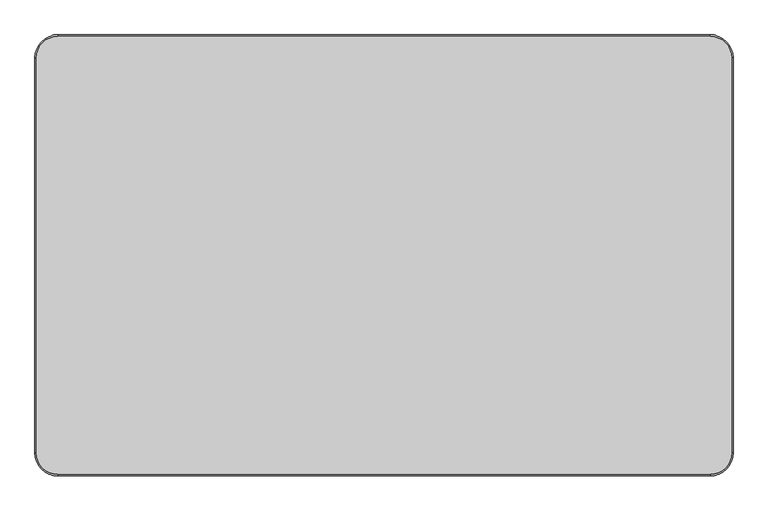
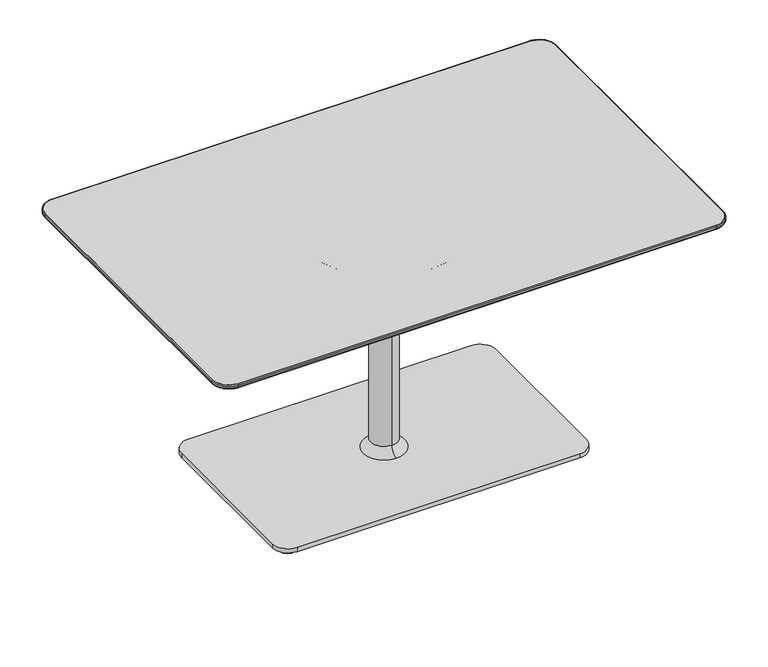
"""IFC4 building model written with IfcOpenShell, lengths in millimetres: furniture geometry, Coalesse_AM_Table_Occasional_Lagunitas_Work : 28.5H x 36D x 57W."""

from ifc_helpers import new_model, si_unit, point, frame, frame_2d, origin, origin_with_axes, place, context, project, spatial, polyline, circle_curve, ellipse_curve, trimmed, segment, composite_curve, outline, extrude, source, transform, mapped, element, save
from ifc_brep_helpers import plane_surface, cylinder_surface, revolved_surface, spline_surface, advanced_brep


def furniture_e72bf5eb(model_context):
    return source(origin(), model_context, "Body", "SolidModel", [
        advanced_brep(
        [(721.1570059, 409.7063839, 711.8724172), (676.7070059, 454.1563839, 711.8724172), (-676.0969941, 454.1563839, 711.8724172), (-720.5469941, 409.7063839, 711.8724172), (-720.5469941, -409.7063839, 711.8724172), (-676.0969941, -454.1563839, 711.8724172), (676.7070059, -454.1563839, 711.8724172), (721.1570059, -409.7063839, 711.8724172), (653.3389826, 386.3390054, 693.8099277), (653.3389826, -386.3390054, 693.8099277), (-652.7289709, -386.3390054, 693.8099277), (-652.7289709, 386.3390054, 693.8099277)],
        [
            (0, 1, circle_curve(frame((676.7070059, 409.7063839, 711.8724172), z_axis=(0.0, 0.0, 1.0), x_axis=(1.0, 0.0, 0.0)), 44.45)),
            (1, 2),
            (2, 3, circle_curve(frame((-676.0969941, 409.7063839, 711.8724172), z_axis=(0.0, 0.0, 1.0), x_axis=(1.0, 0.0, 0.0)), 44.45)),
            (3, 4),
            (4, 5, circle_curve(frame((-676.0969941, -409.7063839, 711.8724172), z_axis=(0.0, 0.0, 1.0), x_axis=(1.0, 0.0, 0.0)), 44.45)),
            (5, 6),
            (6, 7, circle_curve(frame((676.7070059, -409.7063839, 711.8724172), z_axis=(0.0, 0.0, 1.0), x_axis=(1.0, 0.0, 0.0)), 44.45)),
            (7, 0),
            (8, 9),
            (9, 10),
            (10, 11),
            (11, 8),
            (0, 8),
            (8, 1),
            (11, 2),
            (11, 3),
            (10, 4),
            (10, 5),
            (9, 6),
            (9, 7),
        ],
        [
            plane_surface(frame((0.3050059, 0.0, 711.8724172), z_axis=(0.0, 0.0, 1.0), x_axis=(-1.0, 0.0, 0.0))),
            plane_surface(frame((0.3050059, 0.0, 693.8099277), z_axis=(0.0, 0.0, -1.0), x_axis=(-1.0, 0.0, 0.0))),
            spline_surface(2, 1, [[(653.3389826, 386.3390054, 693.8099277), (721.1570059, 409.7063839, 711.8724172)], [(653.3389826, 386.3390054, 693.8099277), (721.1570058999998, 454.1563838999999, 711.8724172)], [(653.3389826, 386.3390054, 693.8099277), (676.7070059, 454.1563839, 711.8724172)]], [3, 3], [2, 2], [0.0, 1.0], [0.0, 1.0], weights=[[1.0, 1.0], [0.707106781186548, 0.707106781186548], [1.0, 1.0]]),
            plane_surface(frame((0.3050059, 386.3390054, 693.8099277), z_axis=(0.0, 0.25736805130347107, -0.9663134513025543), x_axis=(-1.0, 0.0, 0.0))),
            spline_surface(2, 1, [[(-652.7289709, 386.3390054, 693.8099277), (-676.0969941, 454.1563839, 711.8724172)], [(-652.7289709, 386.3390054, 693.8099277), (-720.5469940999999, 454.1563838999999, 711.8724172)], [(-652.7289709, 386.3390054, 693.8099277), (-720.5469941, 409.7063839, 711.8724172)]], [3, 3], [2, 2], [0.0, 1.0], [0.0, 1.0], weights=[[1.0, 1.0], [0.707106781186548, 0.707106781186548], [1.0, 1.0]]),
            plane_surface(frame((-652.7289709, 0.0, 693.8099277), z_axis=(-0.2573657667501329, 0.0, -0.9663140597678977), x_axis=(0.0, -1.0, 0.0))),
            spline_surface(2, 1, [[(-652.7289709, -386.3390054, 693.8099277), (-720.5469941, -409.7063839, 711.8724172)], [(-652.7289709, -386.3390054, 693.8099277), (-720.5469941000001, -454.15638390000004, 711.8724172)], [(-652.7289709, -386.3390054, 693.8099277), (-676.0969941, -454.1563839, 711.8724172)]], [3, 3], [2, 2], [0.0, 1.0], [0.0, 1.0], weights=[[1.0, 1.0], [0.7071067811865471, 0.7071067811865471], [1.0, 1.0]]),
            plane_surface(frame((0.3050059, -386.3390054, 693.8099277), z_axis=(0.0, -0.25736805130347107, -0.9663134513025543), x_axis=(1.0, 0.0, 0.0))),
            spline_surface(2, 1, [[(653.3389826, -386.3390054, 693.8099277), (676.7070059, -454.1563839, 711.8724172)], [(653.3389826, -386.3390054, 693.8099277), (721.1570059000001, -454.15638390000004, 711.8724172)], [(653.3389826, -386.3390054, 693.8099277), (721.1570059, -409.7063839, 711.8724172)]], [3, 3], [2, 2], [0.0, 1.0], [0.0, 1.0], weights=[[1.0, 1.0], [0.707106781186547, 0.707106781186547], [1.0, 1.0]]),
            plane_surface(frame((653.3389826, 0.0, 693.8099277), z_axis=(0.2573657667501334, 0.0, -0.9663140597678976), x_axis=(0.0, 1.0, 0.0))),
        ],
        [
            (0, [[1, 2, 3, 4, 5, 6, 7, 8]]),
            (1, [[9, 10, 11, 12]]),
            (2, [[-1, 13, 14]]),
            (3, [[-12, 15, -2, -14]]),
            (4, [[-3, -15, 16]]),
            (5, [[-11, 17, -4, -16]]),
            (6, [[-5, -17, 18]]),
            (7, [[-10, 19, -6, -18]]),
            (8, [[-7, -19, 20]]),
            (9, [[-9, -13, -8, -20]]),
        ],
    ),
        extrude(outline(composite_curve([segment(trimmed(circle_curve(frame_2d((676.7070059, 409.7063839)), 44.45), [point((676.7070059, 454.1563839))], [point((721.1570059, 409.7063839))], False, "CARTESIAN"), True, "CONTINUOUS"), segment(polyline([(721.1570059, 409.7063839), (721.1570059, -409.7063839)]), True, "CONTINUOUS"), segment(trimmed(circle_curve(frame_2d((676.7070059, -409.7063839)), 44.45), [point((721.1570059, -409.7063839))], [point((676.7070059, -454.1563839))], False, "CARTESIAN"), True, "CONTINUOUS"), segment(polyline([(676.7070059, -454.1563839), (-676.0969941, -454.1563839)]), True, "CONTINUOUS"), segment(trimmed(circle_curve(frame_2d((-676.0969941, -409.7063839)), 44.45), [point((-676.0969941, -454.1563839))], [point((-720.5469941, -409.7063839))], False, "CARTESIAN"), True, "CONTINUOUS"), segment(polyline([(-720.5469941, -409.7063839), (-720.5469941, 409.7063839)]), True, "CONTINUOUS"), segment(trimmed(circle_curve(frame_2d((-676.0969941, 409.7063839)), 44.45), [point((-720.5469941, 409.7063839))], [point((-676.0969941, 454.1563839))], False, "CARTESIAN"), True, "CONTINUOUS"), segment(polyline([(-676.0969941, 454.1563839), (676.7070059, 454.1563839)]), True, "CONTINUOUS")], self_intersect=False)), frame((0.0, 0.0, 711.8724172), z_axis=(0.0, 0.0, 1.0), x_axis=(1.0, 0.0, 0.0)), (0.0, 0.0, 1.0), 12.0275828),
        extrude(outline(composite_curve([segment(trimmed(circle_curve(frame_2d((-404.2943146, 226.8029495)), 25.4), [point((-429.6943146, 226.8029495))], [point((-378.8943146, 226.8029495))], False, "CARTESIAN"), True, "CONTINUOUS"), segment(trimmed(circle_curve(frame_2d((-404.2943146, 226.8029495)), 25.4), [point((-378.8943146, 226.8029495))], [point((-429.6943146, 226.8029495))], False, "CARTESIAN"), True, "CONTINUOUS")], self_intersect=False)), origin_with_axes(), (0.0, 0.0, 1.0), 10.6571495),
        extrude(outline(composite_curve([segment(trimmed(circle_curve(frame_2d((404.9043263, 226.8029495)), 25.4), [point((379.5043263, 226.8029495))], [point((430.3043263, 226.8029495))], False, "CARTESIAN"), True, "CONTINUOUS"), segment(trimmed(circle_curve(frame_2d((404.9043263, 226.8029495)), 25.4), [point((430.3043263, 226.8029495))], [point((379.5043263, 226.8029495))], False, "CARTESIAN"), True, "CONTINUOUS")], self_intersect=False)), origin_with_axes(), (0.0, 0.0, 1.0), 10.6571495),
        extrude(outline(composite_curve([segment(trimmed(circle_curve(frame_2d((404.9043263, -226.8029495)), 25.4), [point((379.5043263, -226.8029495))], [point((430.3043263, -226.8029495))], False, "CARTESIAN"), True, "CONTINUOUS"), segment(trimmed(circle_curve(frame_2d((404.9043263, -226.8029495)), 25.4), [point((430.3043263, -226.8029495))], [point((379.5043263, -226.8029495))], False, "CARTESIAN"), True, "CONTINUOUS")], self_intersect=False)), origin_with_axes(), (0.0, 0.0, 1.0), 10.6571495),
        extrude(outline(composite_curve([segment(trimmed(circle_curve(frame_2d((-404.2943146, -226.8029495)), 25.4), [point((-429.6943146, -226.8029495))], [point((-378.8943146, -226.8029495))], False, "CARTESIAN"), True, "CONTINUOUS"), segment(trimmed(circle_curve(frame_2d((-404.2943146, -226.8029495)), 25.4), [point((-378.8943146, -226.8029495))], [point((-429.6943146, -226.8029495))], False, "CARTESIAN"), True, "CONTINUOUS")], self_intersect=False)), origin_with_axes(), (0.0, 0.0, 1.0), 10.6571495),
        extrude(outline(composite_curve([segment(trimmed(circle_curve(frame_2d((400.3550059, 222.2481833)), 44.45), [point((400.3550059, 266.6981833))], [point((444.8050059, 222.2481833))], False, "CARTESIAN"), True, "CONTINUOUS"), segment(polyline([(444.8050059, 222.2481833), (444.8050059, -222.2481833)]), True, "CONTINUOUS"), segment(trimmed(circle_curve(frame_2d((400.3550059, -222.2481833)), 44.45), [point((444.8050059, -222.2481833))], [point((400.3550059, -266.6981833))], False, "CARTESIAN"), True, "CONTINUOUS"), segment(polyline([(400.3550059, -266.6981833), (-399.7449941, -266.6981833)]), True, "CONTINUOUS"), segment(trimmed(circle_curve(frame_2d((-399.7449941, -222.2481833)), 44.45), [point((-399.7449941, -266.6981833))], [point((-444.1949941, -222.2481833))], False, "CARTESIAN"), True, "CONTINUOUS"), segment(polyline([(-444.1949941, -222.2481833), (-444.1949941, 222.2481833)]), True, "CONTINUOUS"), segment(trimmed(circle_curve(frame_2d((-399.7449941, 222.2481833)), 44.45), [point((-444.1949941, 222.2481833))], [point((-399.7449941, 266.6981833))], False, "CARTESIAN"), True, "CONTINUOUS"), segment(polyline([(-399.7449941, 266.6981833), (400.3550059, 266.6981833)]), True, "CONTINUOUS")], self_intersect=False)), frame((0.0, 0.0, 10.6571495), z_axis=(0.0, 0.0, 1.0), x_axis=(1.0, 0.0, 0.0)), (0.0, 0.0, 1.0), 12.7000004),
        advanced_brep(
        [(-723.5930954, 409.7063839, 715.6656816), (-676.0969941, 457.2024852, 715.6656816), (-676.0969941, 454.1563839, 711.8724172), (-720.5469941, 409.7063839, 711.8724172), (-723.5930954, 409.7063839, 720.8538988), (-676.0969941, 457.2024852, 720.8538988), (-720.5469941, 409.7063839, 723.9), (-676.0969941, 454.1563839, 723.9), (-720.5469941, -409.7063839, 711.8724172), (-723.5930954, -409.7063839, 715.6656816), (-723.5930954, -409.7063839, 720.8538988), (-720.5469941, -409.7063839, 723.9), (-676.0969941, -457.2024852, 715.6656816), (-676.0969941, -454.1563839, 711.8724172), (-676.0969941, -457.2024852, 720.8538988), (-676.0969941, -454.1563839, 723.9), (676.7070059, -454.1563839, 711.8724172), (676.7070059, -457.2024852, 715.6656816), (676.7070059, -457.2024852, 720.8538988), (676.7070059, -454.1563839, 723.9), (724.2031071, -409.7063839, 715.6656816), (721.1570059, -409.7063839, 711.8724172), (724.2031071, -409.7063839, 720.8538988), (721.1570059, -409.7063839, 723.9), (721.1570059, 409.7063839, 711.8724172), (724.2031071, 409.7063839, 715.6656816), (724.2031071, 409.7063839, 720.8538988), (721.1570059, 409.7063839, 723.9), (676.7070059, 457.2024852, 715.6656816), (676.7070059, 454.1563839, 711.8724172), (676.7070059, 457.2024852, 720.8538988), (676.7070059, 454.1563839, 723.9)],
        [
            (0, 1, circle_curve(frame((-676.0969941, 409.7063839, 715.6656816), z_axis=(0.0, 0.0, -1.0), x_axis=(0.0, 1.0, 0.0)), 47.4961012)),
            (1, 2, circle_curve(frame((-676.0969941, 453.3175869, 715.6656816), z_axis=(-1.0, 0.0, 0.0), x_axis=(0.0, -1.0, 0.0)), 3.8848983)),
            (2, 3, circle_curve(frame((-676.0969941, 409.7063839, 711.8724172), z_axis=(0.0, 0.0, 1.0), x_axis=(0.0, 1.0, 0.0)), 44.45)),
            (3, 0, circle_curve(frame((-719.7081971, 409.7063839, 715.6656816), z_axis=(0.0, 1.0, 0.0), x_axis=(1.0, 0.0, 0.0)), 3.8848983)),
            (4, 5, circle_curve(frame((-676.0969941, 409.7063839, 720.8538988), z_axis=(0.0, 0.0, -1.0), x_axis=(0.0, 1.0, 0.0)), 47.4961012)),
            (5, 1),
            (0, 4),
            (6, 7, circle_curve(frame((-676.0969941, 409.7063839, 723.9), z_axis=(0.0, 0.0, -1.0), x_axis=(0.0, 1.0, 0.0)), 44.45)),
            (7, 5, circle_curve(frame((-676.0969941, 454.1563839, 720.8538988), z_axis=(-1.0, 0.0, 0.0), x_axis=(0.0, -1.0, 0.0)), 3.0461012)),
            (4, 6, circle_curve(frame((-720.5469941, 409.7063839, 720.8538988), z_axis=(0.0, 1.0, 0.0), x_axis=(1.0, 0.0, 0.0)), 3.0461012)),
            (2, 7),
            (6, 3),
            (3, 8),
            (8, 9, circle_curve(frame((-719.7081971, -409.7063839, 715.6656816), z_axis=(0.0, 1.0, 0.0), x_axis=(1.0, 0.0, 0.0)), 3.8848983)),
            (9, 0),
            (9, 10),
            (10, 4),
            (10, 11, circle_curve(frame((-720.5469941, -409.7063839, 720.8538988), z_axis=(0.0, 1.0, 0.0), x_axis=(1.0, 0.0, 0.0)), 3.0461012)),
            (11, 6),
            (11, 8),
            (12, 9, circle_curve(frame((-676.0969941, -409.7063839, 715.6656816), z_axis=(0.0, 0.0, -1.0), x_axis=(-1.0, 0.0, 0.0)), 47.4961012)),
            (8, 13, circle_curve(frame((-676.0969941, -409.7063839, 711.8724172), z_axis=(0.0, 0.0, 1.0), x_axis=(-1.0, 0.0, 0.0)), 44.45)),
            (13, 12, circle_curve(frame((-676.0969941, -453.3175869, 715.6656816), z_axis=(-1.0, 0.0, 0.0), x_axis=(0.0, 1.0, 0.0)), 3.8848983)),
            (14, 10, circle_curve(frame((-676.0969941, -409.7063839, 720.8538988), z_axis=(0.0, 0.0, -1.0), x_axis=(-1.0, 0.0, 0.0)), 47.4961012)),
            (12, 14),
            (15, 11, circle_curve(frame((-676.0969941, -409.7063839, 723.9), z_axis=(0.0, 0.0, -1.0), x_axis=(-1.0, 0.0, 0.0)), 44.45)),
            (14, 15, circle_curve(frame((-676.0969941, -454.1563839, 720.8538988), z_axis=(-1.0, 0.0, 0.0), x_axis=(0.0, 1.0, 0.0)), 3.0461012)),
            (15, 13),
            (13, 16),
            (16, 17, circle_curve(frame((676.7070059, -453.3175869, 715.6656816), z_axis=(-1.0, 0.0, 0.0), x_axis=(0.0, 1.0, 0.0)), 3.8848983)),
            (17, 12),
            (17, 18),
            (18, 14),
            (18, 19, circle_curve(frame((676.7070059, -454.1563839, 720.8538988), z_axis=(-1.0, 0.0, 0.0), x_axis=(0.0, 1.0, 0.0)), 3.0461012)),
            (19, 15),
            (19, 16),
            (20, 17, circle_curve(frame((676.7070059, -409.7063839, 715.6656816), z_axis=(0.0, 0.0, -1.0), x_axis=(0.0, -1.0, 0.0)), 47.4961012)),
            (16, 21, circle_curve(frame((676.7070059, -409.7063839, 711.8724172), z_axis=(0.0, 0.0, 1.0), x_axis=(0.0, -1.0, 0.0)), 44.45)),
            (21, 20, circle_curve(frame((720.3182088, -409.7063839, 715.6656816), z_axis=(0.0, -1.0, 0.0), x_axis=(-1.0, 0.0, 0.0)), 3.8848983)),
            (22, 18, circle_curve(frame((676.7070059, -409.7063839, 720.8538988), z_axis=(0.0, 0.0, -1.0), x_axis=(0.0, -1.0, 0.0)), 47.4961012)),
            (20, 22),
            (23, 19, circle_curve(frame((676.7070059, -409.7063839, 723.9), z_axis=(0.0, 0.0, -1.0), x_axis=(0.0, -1.0, 0.0)), 44.45)),
            (22, 23, circle_curve(frame((721.1570059, -409.7063839, 720.8538988), z_axis=(0.0, -1.0, 0.0), x_axis=(-1.0, 0.0, 0.0)), 3.0461012)),
            (23, 21),
            (21, 24),
            (24, 25, circle_curve(frame((720.3182088, 409.7063839, 715.6656816), z_axis=(0.0, -1.0, 0.0), x_axis=(-1.0, 0.0, 0.0)), 3.8848983)),
            (25, 20),
            (25, 26),
            (26, 22),
            (26, 27, circle_curve(frame((721.1570059, 409.7063839, 720.8538988), z_axis=(0.0, -1.0, 0.0), x_axis=(-1.0, 0.0, 0.0)), 3.0461012)),
            (27, 23),
            (27, 24),
            (28, 25, circle_curve(frame((676.7070059, 409.7063839, 715.6656816), z_axis=(0.0, 0.0, -1.0), x_axis=(1.0, 0.0, 0.0)), 47.4961012)),
            (24, 29, circle_curve(frame((676.7070059, 409.7063839, 711.8724172), z_axis=(0.0, 0.0, 1.0), x_axis=(1.0, 0.0, 0.0)), 44.45)),
            (29, 28, circle_curve(frame((676.7070059, 453.3175869, 715.6656816), z_axis=(1.0, 0.0, 0.0), x_axis=(0.0, -1.0, 0.0)), 3.8848983)),
            (30, 26, circle_curve(frame((676.7070059, 409.7063839, 720.8538988), z_axis=(0.0, 0.0, -1.0), x_axis=(1.0, 0.0, 0.0)), 47.4961012)),
            (28, 30),
            (31, 27, circle_curve(frame((676.7070059, 409.7063839, 723.9), z_axis=(0.0, 0.0, -1.0), x_axis=(1.0, 0.0, 0.0)), 44.45)),
            (30, 31, circle_curve(frame((676.7070059, 454.1563839, 720.8538988), z_axis=(1.0, 0.0, 0.0), x_axis=(0.0, -1.0, 0.0)), 3.0461012)),
            (31, 29),
            (29, 2),
            (1, 28),
            (5, 30),
            (7, 31),
        ],
        [
            revolved_surface(trimmed(ellipse_curve(frame((-676.0969941, 453.3175869, 715.6656816), z_axis=(1.0, 0.0, 0.0), x_axis=(0.0, -1.0, 0.0)), 3.8848983, 3.8848983), [point((-676.0969941, 454.1563839, 711.8724172))], [point((-676.0969941, 457.2024852, 715.6656816))], True, "CARTESIAN"), (-676.0969941, 409.7063839, 0.0), (0.0, 0.0, 1.0)),
            cylinder_surface(frame((-676.0969941, 409.7063839, 0.0), z_axis=(0.0, 0.0, 1.0), x_axis=(0.0, 1.0, 0.0)), 47.4961012),
            revolved_surface(trimmed(ellipse_curve(frame((-676.0969941, 454.1563839, 720.8538988), z_axis=(1.0, 0.0, 0.0), x_axis=(0.0, -1.0, 0.0)), 3.0461012, 3.0461012), [point((-676.0969941, 457.2024852, 720.8538988))], [point((-676.0969941, 454.1563839, 723.9))], True, "CARTESIAN"), (-676.0969941, 409.7063839, 0.0), (0.0, 0.0, 1.0)),
            revolved_surface(polyline([(-676.0969941, 454.1563839, 723.9), (-676.0969941, 454.1563839, 711.8724172)]), (-676.0969941, 409.7063839, 0.0), (0.0, 0.0, 1.0)),
            cylinder_surface(frame((-719.7081971, 409.7063839, 715.6656816), z_axis=(0.0, 1.0, 0.0), x_axis=(1.0, 0.0, 0.0)), 3.8848983),
            plane_surface(frame((-723.5930954, 409.7063839, 715.6656816), z_axis=(-1.0, 0.0, 0.0), x_axis=(0.0, -1.0, 0.0))),
            cylinder_surface(frame((-720.5469941, 409.7063839, 720.8538988), z_axis=(0.0, 1.0, 0.0), x_axis=(1.0, 0.0, 0.0)), 3.0461012),
            plane_surface(frame((-720.5469941, 409.7063839, 723.9), z_axis=(1.0, 0.0, 0.0), x_axis=(0.0, -1.0, 0.0))),
            revolved_surface(trimmed(ellipse_curve(frame((-719.7081971, -409.7063839, 715.6656816), z_axis=(0.0, 1.0, 0.0), x_axis=(1.0, 0.0, 0.0)), 3.8848983, 3.8848983), [point((-720.5469941, -409.7063839, 711.8724172))], [point((-723.5930954, -409.7063839, 715.6656816))], True, "CARTESIAN"), (-676.0969941, -409.7063839, 0.0), (0.0, 0.0, 1.0)),
            cylinder_surface(frame((-676.0969941, -409.7063839, 0.0), z_axis=(0.0, 0.0, 1.0), x_axis=(-1.0, 0.0, 0.0)), 47.4961012),
            revolved_surface(trimmed(ellipse_curve(frame((-720.5469941, -409.7063839, 720.8538988), z_axis=(0.0, 1.0, 0.0), x_axis=(1.0, 0.0, 0.0)), 3.0461012, 3.0461012), [point((-723.5930954, -409.7063839, 720.8538988))], [point((-720.5469941, -409.7063839, 723.9))], True, "CARTESIAN"), (-676.0969941, -409.7063839, 0.0), (0.0, 0.0, 1.0)),
            revolved_surface(polyline([(-720.5469941, -409.7063839, 723.9), (-720.5469941, -409.7063839, 711.8724172)]), (-676.0969941, -409.7063839, 0.0), (0.0, 0.0, 1.0)),
            cylinder_surface(frame((-676.0969941, -453.3175869, 715.6656816), z_axis=(-1.0, 0.0, 0.0), x_axis=(0.0, 1.0, 0.0)), 3.8848983),
            plane_surface(frame((-676.0969941, -457.2024852, 715.6656816), z_axis=(0.0, -1.0, 0.0), x_axis=(1.0, 0.0, 0.0))),
            cylinder_surface(frame((-676.0969941, -454.1563839, 720.8538988), z_axis=(-1.0, 0.0, 0.0), x_axis=(0.0, 1.0, 0.0)), 3.0461012),
            plane_surface(frame((-676.0969941, -454.1563839, 723.9), z_axis=(0.0, 1.0, 0.0), x_axis=(1.0, 0.0, 0.0))),
            revolved_surface(trimmed(ellipse_curve(frame((676.7070059, -453.3175869, 715.6656816), z_axis=(-1.0, 0.0, 0.0), x_axis=(0.0, 1.0, 0.0)), 3.8848983, 3.8848983), [point((676.7070059, -454.1563839, 711.8724172))], [point((676.7070059, -457.2024852, 715.6656816))], True, "CARTESIAN"), (676.7070059, -409.7063839, 0.0), (0.0, 0.0, 1.0)),
            cylinder_surface(frame((676.7070059, -409.7063839, 0.0), z_axis=(0.0, 0.0, 1.0), x_axis=(0.0, -1.0, 0.0)), 47.4961012),
            revolved_surface(trimmed(ellipse_curve(frame((676.7070059, -454.1563839, 720.8538988), z_axis=(-1.0, 0.0, 0.0), x_axis=(0.0, 1.0, 0.0)), 3.0461012, 3.0461012), [point((676.7070059, -457.2024852, 720.8538988))], [point((676.7070059, -454.1563839, 723.9))], True, "CARTESIAN"), (676.7070059, -409.7063839, 0.0), (0.0, 0.0, 1.0)),
            revolved_surface(polyline([(676.7070059, -454.1563839, 723.9), (676.7070059, -454.1563839, 711.8724172)]), (676.7070059, -409.7063839, 0.0), (0.0, 0.0, 1.0)),
            cylinder_surface(frame((720.3182088, -409.7063839, 715.6656816), z_axis=(0.0, -1.0, 0.0), x_axis=(-1.0, 0.0, 0.0)), 3.8848983),
            plane_surface(frame((724.2031071, -409.7063839, 715.6656816), z_axis=(1.0, 0.0, 0.0), x_axis=(0.0, 1.0, 0.0))),
            cylinder_surface(frame((721.1570059, -409.7063839, 720.8538988), z_axis=(0.0, -1.0, 0.0), x_axis=(-1.0, 0.0, 0.0)), 3.0461012),
            plane_surface(frame((721.1570059, -409.7063839, 723.9), z_axis=(-1.0, 0.0, 0.0), x_axis=(0.0, 1.0, 0.0))),
            revolved_surface(trimmed(ellipse_curve(frame((720.3182088, 409.7063839, 715.6656816), z_axis=(0.0, -1.0, 0.0), x_axis=(-1.0, 0.0, 0.0)), 3.8848983, 3.8848983), [point((721.1570059, 409.7063839, 711.8724172))], [point((724.2031071, 409.7063839, 715.6656816))], True, "CARTESIAN"), (676.7070059, 409.7063839, 0.0), (0.0, 0.0, 1.0)),
            cylinder_surface(frame((676.7070059, 409.7063839, 0.0), z_axis=(0.0, 0.0, 1.0), x_axis=(1.0, 0.0, 0.0)), 47.4961012),
            revolved_surface(trimmed(ellipse_curve(frame((721.1570059, 409.7063839, 720.8538988), z_axis=(0.0, -1.0, 0.0), x_axis=(-1.0, 0.0, 0.0)), 3.0461012, 3.0461012), [point((724.2031071, 409.7063839, 720.8538988))], [point((721.1570059, 409.7063839, 723.9))], True, "CARTESIAN"), (676.7070059, 409.7063839, 0.0), (0.0, 0.0, 1.0)),
            revolved_surface(polyline([(721.1570059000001, 409.7063839, 723.9), (721.1570059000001, 409.7063839, 711.8724172)]), (676.7070059, 409.7063839, 0.0), (0.0, 0.0, 1.0)),
            cylinder_surface(frame((676.7070059, 453.3175869, 715.6656816), z_axis=(1.0, 0.0, 0.0), x_axis=(0.0, -1.0, 0.0)), 3.8848983),
            plane_surface(frame((676.7070059, 457.2024852, 715.6656816), z_axis=(0.0, 1.0, 0.0), x_axis=(-1.0, 0.0, 0.0))),
            cylinder_surface(frame((676.7070059, 454.1563839, 720.8538988), z_axis=(1.0, 0.0, 0.0), x_axis=(0.0, -1.0, 0.0)), 3.0461012),
            plane_surface(frame((676.7070059, 454.1563839, 723.9), z_axis=(0.0, -1.0, 0.0), x_axis=(-1.0, 0.0, 0.0))),
        ],
        [
            (0, [[1, 2, 3, 4]]),
            (1, [[5, 6, -1, 7]]),
            (2, [[8, 9, -5, 10]]),
            (3, [[-3, 11, -8, 12]]),
            (4, [[-4, 13, 14, 15]]),
            (5, [[-7, -15, 16, 17]]),
            (6, [[-10, -17, 18, 19]]),
            (7, [[-12, -19, 20, -13]]),
            (8, [[21, -14, 22, 23]]),
            (9, [[24, -16, -21, 25]]),
            (10, [[26, -18, -24, 27]]),
            (11, [[-22, -20, -26, 28]]),
            (12, [[-23, 29, 30, 31]]),
            (13, [[-25, -31, 32, 33]]),
            (14, [[-27, -33, 34, 35]]),
            (15, [[-28, -35, 36, -29]]),
            (16, [[37, -30, 38, 39]]),
            (17, [[40, -32, -37, 41]]),
            (18, [[42, -34, -40, 43]]),
            (19, [[-38, -36, -42, 44]]),
            (20, [[-39, 45, 46, 47]]),
            (21, [[-41, -47, 48, 49]]),
            (22, [[-43, -49, 50, 51]]),
            (23, [[-44, -51, 52, -45]]),
            (24, [[53, -46, 54, 55]]),
            (25, [[56, -48, -53, 57]]),
            (26, [[58, -50, -56, 59]]),
            (27, [[-54, -52, -58, 60]]),
            (28, [[-55, 61, -2, 62]]),
            (29, [[-57, -62, -6, 63]]),
            (30, [[-59, -63, -9, 64]]),
            (31, [[-60, -64, -11, -61]]),
        ],
    ),
        advanced_brep(
        [(0.3050059, -37.9287895, 564.3567695), (0.3050059, 37.9287895, 564.3567695), (0.3050059, 37.9287895, 50.0429711), (0.3050059, -37.9287895, 50.0429711), (0.3050059, -59.3395816, 602.3698908), (0.3050059, 59.3395816, 602.3698908), (0.3050059, -197.9068019, 686.3534968), (0.3050059, 197.9068019, 686.3534968), (0.3050059, -212.4265152, 690.4101307), (0.3050059, 212.4265152, 690.4101307), (0.3050059, -226.4292749, 690.4101307), (0.3050059, 226.4292749, 690.4101307), (0.3050059, -228.4774392, 693.8099277), (0.3050059, 228.4774392, 693.8099277), (0.3050059, 0.0, 693.8099277), (0.3050059, -60.2304855, 23.3571499), (0.3050059, 60.2304855, 23.3571499), (0.3050059, 0.0, 23.3571499)],
        [
            (0, 1, circle_curve(frame((0.3050059, 0.0, 564.3567695), z_axis=(0.0, 0.0, -1.0), x_axis=(0.0, 1.0, 0.0)), 37.9287895)),
            (1, 2),
            (2, 3, circle_curve(frame((0.3050059, 0.0, 50.0429711), z_axis=(0.0, 0.0, 1.0), x_axis=(0.0, 1.0, 0.0)), 37.9287895)),
            (3, 0),
            (1, 0, circle_curve(frame((0.3050059, 0.0, 564.3567695), z_axis=(0.0, 0.0, -1.0), x_axis=(0.0, 1.0, 0.0)), 37.9287895)),
            (3, 2, circle_curve(frame((0.3050059, 0.0, 50.0429711), z_axis=(0.0, 0.0, 1.0), x_axis=(0.0, 1.0, 0.0)), 37.9287895)),
            (4, 5, circle_curve(frame((0.3050059, 0.0, 602.3698908), z_axis=(0.0, 0.0, -1.0), x_axis=(0.0, 1.0, 0.0)), 59.3395816)),
            (5, 1, circle_curve(frame((0.3050059, 82.3787895, 564.3567695), z_axis=(1.0, 0.0, 0.0), x_axis=(0.0, 1.0, 0.0)), 44.45)),
            (0, 4, circle_curve(frame((0.3050059, -82.3787895, 564.3567695), z_axis=(1.0, 0.0, 0.0), x_axis=(0.0, -1.0, 0.0)), 44.45)),
            (5, 4, circle_curve(frame((0.3050059, 0.0, 602.3698908), z_axis=(0.0, 0.0, -1.0), x_axis=(0.0, 1.0, 0.0)), 59.3395816)),
            (6, 7, circle_curve(frame((0.3050059, 0.0, 686.3534968), z_axis=(0.0, 0.0, -1.0), x_axis=(0.0, 1.0, 0.0)), 197.9068019)),
            (7, 5),
            (4, 6),
            (7, 6, circle_curve(frame((0.3050059, 0.0, 686.3534968), z_axis=(0.0, 0.0, -1.0), x_axis=(0.0, 1.0, 0.0)), 197.9068019)),
            (8, 9, circle_curve(frame((0.3050059, 0.0, 690.4101307), z_axis=(0.0, 0.0, -1.0), x_axis=(0.0, 1.0, 0.0)), 212.4265152)),
            (9, 7, circle_curve(frame((0.3050059, 212.4265152, 662.3969605), z_axis=(1.0, 0.0, 0.0), x_axis=(0.0, 1.0, 0.0)), 28.0131702)),
            (6, 8, circle_curve(frame((0.3050059, -212.4265152, 662.3969605), z_axis=(1.0, 0.0, 0.0), x_axis=(0.0, -1.0, 0.0)), 28.0131702)),
            (9, 8, circle_curve(frame((0.3050059, 0.0, 690.4101307), z_axis=(0.0, 0.0, -1.0), x_axis=(0.0, 1.0, 0.0)), 212.4265152)),
            (10, 11, circle_curve(frame((0.3050059, 0.0, 690.4101307), z_axis=(0.0, 0.0, -1.0), x_axis=(0.0, 1.0, 0.0)), 226.4292749)),
            (11, 9),
            (8, 10),
            (11, 10, circle_curve(frame((0.3050059, 0.0, 690.4101307), z_axis=(0.0, 0.0, -1.0), x_axis=(0.0, 1.0, 0.0)), 226.4292749)),
            (12, 13, circle_curve(frame((0.3050059, 0.0, 693.8099277), z_axis=(0.0, 0.0, -1.0), x_axis=(0.0, 1.0, 0.0)), 228.4774392)),
            (13, 11, circle_curve(frame((0.3050059, 226.4292749, 692.7269744), z_axis=(-1.0, 0.0, 0.0), x_axis=(0.0, 1.0, 0.0)), 2.3168437)),
            (10, 12, circle_curve(frame((0.3050059, -226.4292749, 692.7269744), z_axis=(-1.0, 0.0, 0.0), x_axis=(0.0, -1.0, 0.0)), 2.3168437)),
            (13, 12, circle_curve(frame((0.3050059, 0.0, 693.8099277), z_axis=(0.0, 0.0, -1.0), x_axis=(0.0, 1.0, 0.0)), 228.4774392)),
            (14, 13),
            (12, 14),
            (15, 16, circle_curve(frame((0.3050059, 0.0, 23.3571499), z_axis=(0.0, 0.0, -1.0), x_axis=(0.0, 1.0, 0.0)), 60.2304855)),
            (16, 17),
            (17, 15),
            (16, 15, circle_curve(frame((0.3050059, 0.0, 23.3571499), z_axis=(0.0, 0.0, -1.0), x_axis=(0.0, 1.0, 0.0)), 60.2304855)),
            (2, 16, circle_curve(frame((0.3050059, 65.045532, 50.0429711), z_axis=(1.0, 0.0, 0.0), x_axis=(0.0, 1.0, 0.0)), 27.1167425)),
            (15, 3, circle_curve(frame((0.3050059, -65.045532, 50.0429711), z_axis=(1.0, 0.0, 0.0), x_axis=(0.0, -1.0, 0.0)), 27.1167425)),
        ],
        [
            cylinder_surface(frame((0.3050059, 0.0, 801.7745102), z_axis=(0.0, 0.0, 1.0), x_axis=(0.0, 1.0, 0.0)), 37.9287895),
            revolved_surface(trimmed(ellipse_curve(frame((0.3050059, 82.3787895, 564.3567695), z_axis=(-1.0, 0.0, 0.0), x_axis=(0.0, 1.0, 0.0)), 44.45, 44.45), [point((0.3050059, 37.9287895, 564.3567695))], [point((0.3050059, 59.3395816, 602.3698908))], True, "CARTESIAN"), (0.3050059, 0.0, 801.7745102), (0.0, 0.0, 1.0)),
            revolved_surface(polyline([(0.3050059, 59.3395816, 602.3698908), (0.3050059, 197.9068019, 686.3534968)]), (0.3050059, 0.0, 801.7745102), (0.0, 0.0, 1.0)),
            revolved_surface(trimmed(ellipse_curve(frame((0.3050059, 212.4265152, 662.3969605), z_axis=(-1.0, 0.0, 0.0), x_axis=(0.0, 1.0, 0.0)), 28.0131702, 28.0131702), [point((0.3050059, 197.9068019, 686.3534968))], [point((0.3050059, 212.4265152, 690.4101307))], True, "CARTESIAN"), (0.3050059, 0.0, 801.7745102), (0.0, 0.0, 1.0)),
            plane_surface(frame((0.3050059, 0.0, 690.4101307), z_axis=(0.0, 0.0, -1.0), x_axis=(0.0, 1.0, 0.0))),
            revolved_surface(trimmed(ellipse_curve(frame((0.3050059, 226.4292749, 692.7269744), z_axis=(1.0, 0.0, 0.0), x_axis=(0.0, 1.0, 0.0)), 2.3168437, 2.3168437), [point((0.3050059, 226.4292749, 690.4101307))], [point((0.3050059, 228.4774392, 693.8099277))], True, "CARTESIAN"), (0.3050059, 0.0, 801.7745102), (0.0, 0.0, 1.0)),
            plane_surface(frame((0.3050059, 0.0, 693.8099277), z_axis=(0.0, 0.0, 1.0), x_axis=(0.0, 1.0, 0.0))),
            plane_surface(frame((0.3050059, 0.0, 23.3571499), z_axis=(0.0, 0.0, -1.0), x_axis=(0.0, 1.0, 0.0))),
            revolved_surface(trimmed(ellipse_curve(frame((0.3050059, 65.045532, 50.0429711), z_axis=(-1.0, 0.0, 0.0), x_axis=(0.0, 1.0, 0.0)), 27.1167425, 27.1167425), [point((0.3050059, 60.2304855, 23.3571499))], [point((0.3050059, 37.9287895, 50.0429711))], True, "CARTESIAN"), (0.3050059, 0.0, 801.7745102), (0.0, 0.0, 1.0)),
        ],
        [
            (0, [[1, 2, 3, 4]]),
            (0, [[5, -4, 6, -2]]),
            (1, [[7, 8, -1, 9]]),
            (1, [[10, -9, -5, -8]]),
            (2, [[11, 12, -7, 13]]),
            (2, [[14, -13, -10, -12]]),
            (3, [[15, 16, -11, 17]]),
            (3, [[18, -17, -14, -16]]),
            (4, [[19, 20, -15, 21]]),
            (4, [[22, -21, -18, -20]]),
            (5, [[23, 24, -19, 25]]),
            (5, [[26, -25, -22, -24]]),
            (6, [[27, -23, 28]]),
            (6, [[-28, -26, -27]]),
            (7, [[29, 30, 31]]),
            (7, [[32, -31, -30]]),
            (8, [[-3, 33, -29, 34]]),
            (8, [[-6, -34, -32, -33]]),
        ],
    ),
    ])


if __name__ == "__main__":
    model = new_model("IFC4")
    model_context = context("Model", 3, world=origin())
    ifc_project = project(units=[si_unit("LENGTHUNIT", "METRE", prefix="MILLI")], contexts=[model_context])
    site = spatial("IfcSite", under=ifc_project)
    building = spatial("IfcBuilding", under=site)
    placement = place(None, origin())
    furniture_shape = furniture_e72bf5eb(model_context)
    element("IfcFurniture", 1, ObjectType="Coalesse_AM_Table_Occasional_Lagunitas_Work : 28.5H x 36D x 57W", at=placement, inside=building, context=model_context, shape_type="MappedRepresentation", body=[
        mapped(furniture_shape, transform((0.0, 0.0, 0.0), x_axis=(1.0, 0.0, 0.0), y_axis=(0.0, 1.0, 0.0), z_axis=(0.0, 0.0, 1.0))),
    ])
    save(model, "model.ifc")
